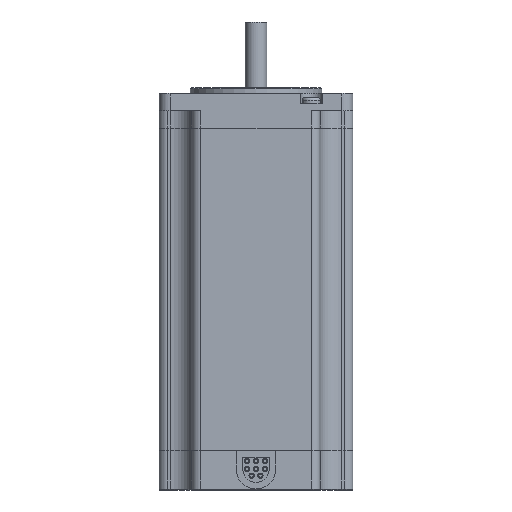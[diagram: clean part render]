
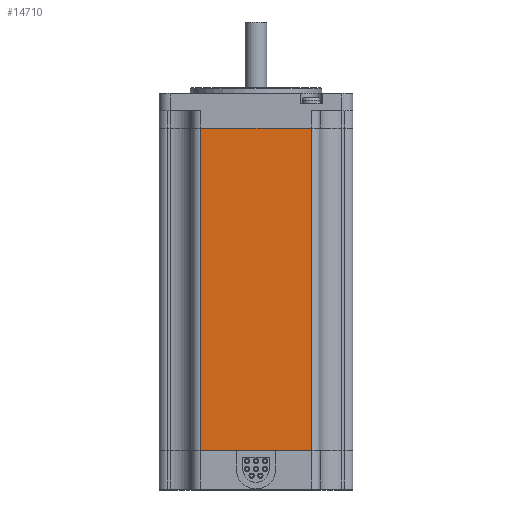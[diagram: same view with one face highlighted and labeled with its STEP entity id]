
A CAD part, front view. The second image highlights one B-rep face of the part: STEP entity #14710.
In plain terms, the highlighted planar face has unit normal (0, -1, 0).
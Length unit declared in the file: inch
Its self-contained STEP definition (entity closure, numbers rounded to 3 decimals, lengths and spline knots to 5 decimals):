
#447 = EDGE_CURVE ( 'NONE', #14917, #452, #7861, .T. ) ;
#449 = EDGE_CURVE ( 'NONE', #452, #1151, #7849, .T. ) ;
#451 = ORIENTED_EDGE ( 'NONE', *, *, #447, .F. ) ;
#452 = VERTEX_POINT ( 'NONE', #7852 ) ;
#1088 = EDGE_CURVE ( 'NONE', #15411, #1151, #10604, .T. ) ;
#1151 = VERTEX_POINT ( 'NONE', #10755 ) ;
#6248 = AXIS2_PLACEMENT_3D ( 'NONE', #6285, #6284, #6283 ) ;
#6255 = PLANE ( 'NONE',  #6248 ) ;
#6258 = FACE_OUTER_BOUND ( 'NONE', #14705, .T. ) ;
#6283 = DIRECTION ( 'NONE',  ( -1., 0., 0. ) ) ;
#6284 = DIRECTION ( 'NONE',  ( 0., 1., 0. ) ) ;
#6285 = CARTESIAN_POINT ( 'NONE',  ( 0.63, -1.104, -4.078 ) ) ;
#6303 = CARTESIAN_POINT ( 'NONE',  ( 0.63, -1.104, -4.078 ) ) ;
#6338 = DIRECTION ( 'NONE',  ( 0., 0., 1. ) ) ;
#6339 = VECTOR ( 'NONE', #6338, 39.37008 ) ;
#6340 = CARTESIAN_POINT ( 'NONE',  ( 0.63, -1.104, -4.078 ) ) ;
#6341 = LINE ( 'NONE', #6340, #6339 ) ;
#6426 = CARTESIAN_POINT ( 'NONE',  ( 0.63, -1.104, -0.4 ) ) ;
#7841 = DIRECTION ( 'NONE',  ( 0., 0., 1. ) ) ;
#7842 = VECTOR ( 'NONE', #7841, 39.37008 ) ;
#7844 = DIRECTION ( 'NONE',  ( -1., 0., 0. ) ) ;
#7845 = VECTOR ( 'NONE', #7844, 39.37008 ) ;
#7846 = CARTESIAN_POINT ( 'NONE',  ( 0.63, -1.104, -4.078 ) ) ;
#7847 = CARTESIAN_POINT ( 'NONE',  ( -0.63, -1.104, -4.078 ) ) ;
#7849 = LINE ( 'NONE', #7847, #7842 ) ;
#7852 = CARTESIAN_POINT ( 'NONE',  ( -0.63, -1.104, -4.078 ) ) ;
#7861 = LINE ( 'NONE', #7846, #7845 ) ;
#10603 = CARTESIAN_POINT ( 'NONE',  ( 0.63, -1.104, -0.4 ) ) ;
#10604 = LINE ( 'NONE', #10603, #10611 ) ;
#10610 = DIRECTION ( 'NONE',  ( -1., 0., 0. ) ) ;
#10611 = VECTOR ( 'NONE', #10610, 39.37008 ) ;
#10755 = CARTESIAN_POINT ( 'NONE',  ( -0.63, -1.104, -0.4 ) ) ;
#14705 = EDGE_LOOP ( 'NONE', ( #15384, #15371, #451, #15367 ) ) ;
#14710 = ADVANCED_FACE ( 'NONE', ( #6258 ), #6255, .F. ) ;
#14917 = VERTEX_POINT ( 'NONE', #6303 ) ;
#14942 = EDGE_CURVE ( 'NONE', #14917, #15411, #6341, .T. ) ;
#15367 = ORIENTED_EDGE ( 'NONE', *, *, #14942, .T. ) ;
#15371 = ORIENTED_EDGE ( 'NONE', *, *, #449, .F. ) ;
#15384 = ORIENTED_EDGE ( 'NONE', *, *, #1088, .T. ) ;
#15411 = VERTEX_POINT ( 'NONE', #6426 ) ;
